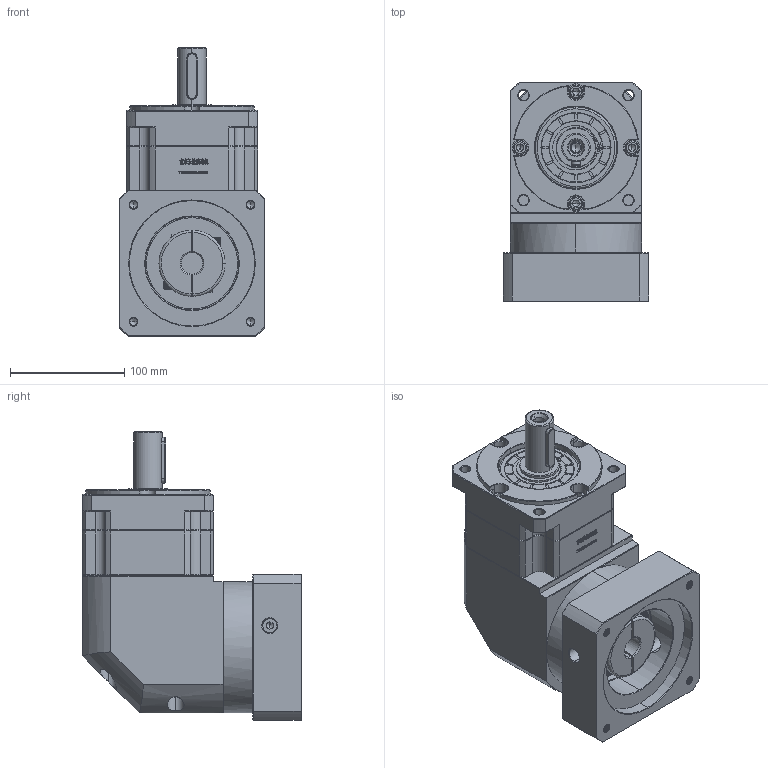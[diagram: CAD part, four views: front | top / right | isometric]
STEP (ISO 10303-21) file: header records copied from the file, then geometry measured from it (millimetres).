
FILE_DESCRIPTION (( 'STEP AP214' ), '1' );
FILE_NAME ('ZBR115A-D25-L1-19-110-145-M8.step', '2023-03-03T04:54:25', ( '' ), ( 'Microsoft' ), 'SwSTEP 2.0', 'SolidWorks 2016', '' );
FILE_SCHEMA (( 'AUTOMOTIVE_DESIGN' ));
Length unit declared in the file: millimetre
Products named in the file (1): ZBR115A-D25-L1-19-110-145-M8
Bounding box: 128 x 192.4 x 253 mm (x, y, z)
Volume: 3042766.2 mm3; surface area: 254248 mm2
Topology: 6 solids, 6 shells, 2981 faces, 7904 edges, 5069 vertices
Faces by surface type: plane 1559, bspline 607, cylinder 439, cone 368, torus 8
Entity records: 161683 total; most frequent: CARTESIAN_POINT 59803, ORIENTED_EDGE 15748, DIRECTION 11917, EDGE_CURVE 7874, LINE 5305, VECTOR 5305, VERTEX_POINT 5069, AXIS2_PLACEMENT_3D 3306
